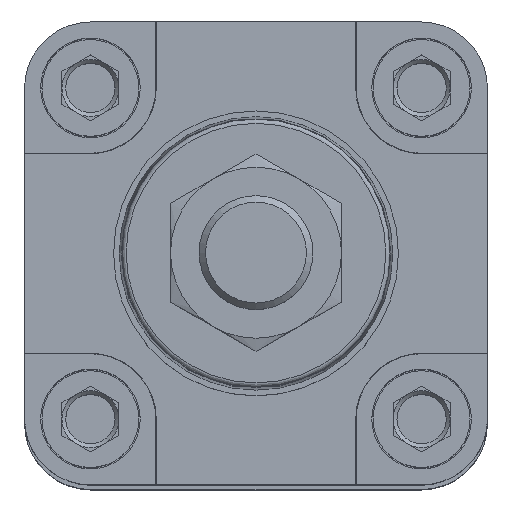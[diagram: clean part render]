
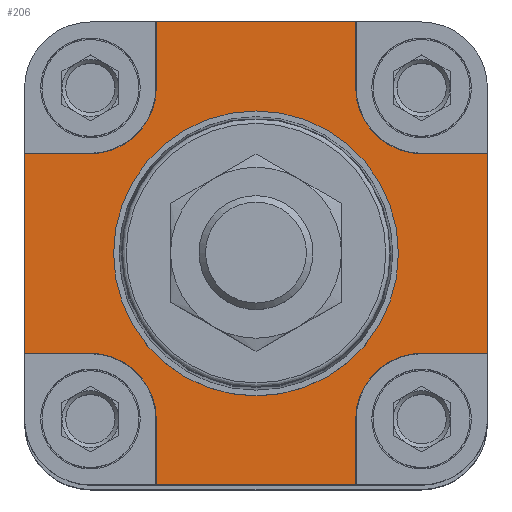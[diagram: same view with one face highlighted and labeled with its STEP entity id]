
A CAD part, top view. The second image highlights one B-rep face of the part: STEP entity #206.
In plain terms, the highlighted planar face has unit normal (0, 0, 1) as drawn and (0, 0, -1) by its records, which use the part's own axes.
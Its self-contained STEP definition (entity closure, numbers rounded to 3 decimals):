
#206 = ADVANCED_FACE( '', ( #596, #597 ), #598, .F. );
#596 = FACE_BOUND( '', #1468, .T. );
#597 = FACE_OUTER_BOUND( '', #1469, .T. );
#598 = PLANE( '', #1470 );
#1468 = EDGE_LOOP( '', ( #2339 ) );
#1469 = EDGE_LOOP( '', ( #2340, #2341, #2342, #2343, #2344, #2345, #2346, #2347, #2348, #2349, #2350, #2351, #2352, #2353, #2354, #2355 ) );
#1470 = AXIS2_PLACEMENT_3D( '', #2356, #2357, #2358 );
#2339 = ORIENTED_EDGE( '', *, *, #5285, .F. );
#2340 = ORIENTED_EDGE( '', *, *, #5286, .F. );
#2341 = ORIENTED_EDGE( '', *, *, #5287, .F. );
#2342 = ORIENTED_EDGE( '', *, *, #5288, .T. );
#2343 = ORIENTED_EDGE( '', *, *, #5289, .F. );
#2344 = ORIENTED_EDGE( '', *, *, #5290, .F. );
#2345 = ORIENTED_EDGE( '', *, *, #5291, .F. );
#2346 = ORIENTED_EDGE( '', *, *, #5292, .T. );
#2347 = ORIENTED_EDGE( '', *, *, #5293, .F. );
#2348 = ORIENTED_EDGE( '', *, *, #5294, .F. );
#2349 = ORIENTED_EDGE( '', *, *, #5295, .F. );
#2350 = ORIENTED_EDGE( '', *, *, #5296, .T. );
#2351 = ORIENTED_EDGE( '', *, *, #5297, .F. );
#2352 = ORIENTED_EDGE( '', *, *, #5298, .F. );
#2353 = ORIENTED_EDGE( '', *, *, #5299, .F. );
#2354 = ORIENTED_EDGE( '', *, *, #5300, .T. );
#2355 = ORIENTED_EDGE( '', *, *, #5301, .F. );
#2356 = CARTESIAN_POINT( '', ( -23.2, -23.2, -406. ) );
#2357 = DIRECTION( '', ( 0., 0., 1. ) );
#2358 = DIRECTION( '', ( 1., 0., 0. ) );
#5285 = EDGE_CURVE( '', #6176, #6176, #6177, .F. );
#5286 = EDGE_CURVE( '', #6178, #6179, #6180, .T. );
#5287 = EDGE_CURVE( '', #6181, #6178, #6182, .T. );
#5288 = EDGE_CURVE( '', #6181, #6183, #6184, .T. );
#5289 = EDGE_CURVE( '', #6185, #6183, #6186, .T. );
#5290 = EDGE_CURVE( '', #6187, #6185, #6188, .T. );
#5291 = EDGE_CURVE( '', #6189, #6187, #6190, .T. );
#5292 = EDGE_CURVE( '', #6189, #6191, #6192, .T. );
#5293 = EDGE_CURVE( '', #6193, #6191, #6194, .T. );
#5294 = EDGE_CURVE( '', #6195, #6193, #6196, .T. );
#5295 = EDGE_CURVE( '', #6197, #6195, #6198, .T. );
#5296 = EDGE_CURVE( '', #6197, #6199, #6200, .T. );
#5297 = EDGE_CURVE( '', #6201, #6199, #6202, .T. );
#5298 = EDGE_CURVE( '', #6203, #6201, #6204, .T. );
#5299 = EDGE_CURVE( '', #6205, #6203, #6206, .T. );
#5300 = EDGE_CURVE( '', #6205, #6207, #6208, .T. );
#5301 = EDGE_CURVE( '', #6179, #6207, #6209, .T. );
#6176 = VERTEX_POINT( '', #7667 );
#6177 = CIRCLE( '', #7668, 20. );
#6178 = VERTEX_POINT( '', #7669 );
#6179 = VERTEX_POINT( '', #7670 );
#6180 = LINE( '', #7671, #7672 );
#6181 = VERTEX_POINT( '', #7673 );
#6182 = LINE( '', #7674, #7675 );
#6183 = VERTEX_POINT( '', #7676 );
#6184 = CIRCLE( '', #7677, 9.3 );
#6185 = VERTEX_POINT( '', #7678 );
#6186 = LINE( '', #7679, #7680 );
#6187 = VERTEX_POINT( '', #7681 );
#6188 = LINE( '', #7682, #7683 );
#6189 = VERTEX_POINT( '', #7684 );
#6190 = LINE( '', #7685, #7686 );
#6191 = VERTEX_POINT( '', #7687 );
#6192 = CIRCLE( '', #7688, 9.3 );
#6193 = VERTEX_POINT( '', #7689 );
#6194 = LINE( '', #7690, #7691 );
#6195 = VERTEX_POINT( '', #7692 );
#6196 = LINE( '', #7693, #7694 );
#6197 = VERTEX_POINT( '', #7695 );
#6198 = LINE( '', #7696, #7697 );
#6199 = VERTEX_POINT( '', #7698 );
#6200 = CIRCLE( '', #7699, 9.3 );
#6201 = VERTEX_POINT( '', #7700 );
#6202 = LINE( '', #7701, #7702 );
#6203 = VERTEX_POINT( '', #7703 );
#6204 = LINE( '', #7704, #7705 );
#6205 = VERTEX_POINT( '', #7706 );
#6206 = LINE( '', #7707, #7708 );
#6207 = VERTEX_POINT( '', #7709 );
#6208 = CIRCLE( '', #7710, 9.3 );
#6209 = LINE( '', #7711, #7712 );
#7667 = CARTESIAN_POINT( '', ( 20., 0., -406. ) );
#7668 = AXIS2_PLACEMENT_3D( '', #9898, #9899, #9900 );
#7669 = CARTESIAN_POINT( '', ( -32.5, 14., -406. ) );
#7670 = CARTESIAN_POINT( '', ( -32.5, -14., -406. ) );
#7671 = CARTESIAN_POINT( '', ( -32.5, 23.2, -406. ) );
#7672 = VECTOR( '', #9901, 1000. );
#7673 = CARTESIAN_POINT( '', ( -23.3, 14., -406. ) );
#7674 = CARTESIAN_POINT( '', ( -23.3, 14., -406. ) );
#7675 = VECTOR( '', #9902, 1000. );
#7676 = CARTESIAN_POINT( '', ( -14., 23.3, -406. ) );
#7677 = AXIS2_PLACEMENT_3D( '', #9903, #9904, #9905 );
#7678 = CARTESIAN_POINT( '', ( -14., 32.5, -406. ) );
#7679 = CARTESIAN_POINT( '', ( -14., 32.5, -406. ) );
#7680 = VECTOR( '', #9906, 1000. );
#7681 = CARTESIAN_POINT( '', ( 14., 32.5, -406. ) );
#7682 = CARTESIAN_POINT( '', ( 23.2, 32.5, -406. ) );
#7683 = VECTOR( '', #9907, 1000. );
#7684 = CARTESIAN_POINT( '', ( 14., 23.3, -406. ) );
#7685 = CARTESIAN_POINT( '', ( 14., 23.3, -406. ) );
#7686 = VECTOR( '', #9908, 1000. );
#7687 = CARTESIAN_POINT( '', ( 23.3, 14., -406. ) );
#7688 = AXIS2_PLACEMENT_3D( '', #9909, #9910, #9911 );
#7689 = CARTESIAN_POINT( '', ( 32.5, 14., -406. ) );
#7690 = CARTESIAN_POINT( '', ( 32.5, 14., -406. ) );
#7691 = VECTOR( '', #9912, 1000. );
#7692 = CARTESIAN_POINT( '', ( 32.5, -14., -406. ) );
#7693 = CARTESIAN_POINT( '', ( 32.5, -23.2, -406. ) );
#7694 = VECTOR( '', #9913, 1000. );
#7695 = CARTESIAN_POINT( '', ( 23.3, -14., -406. ) );
#7696 = CARTESIAN_POINT( '', ( 23.3, -14., -406. ) );
#7697 = VECTOR( '', #9914, 1000. );
#7698 = CARTESIAN_POINT( '', ( 14., -23.3, -406. ) );
#7699 = AXIS2_PLACEMENT_3D( '', #9915, #9916, #9917 );
#7700 = CARTESIAN_POINT( '', ( 14., -32.5, -406. ) );
#7701 = CARTESIAN_POINT( '', ( 14., -32.5, -406. ) );
#7702 = VECTOR( '', #9918, 1000. );
#7703 = CARTESIAN_POINT( '', ( -14., -32.5, -406. ) );
#7704 = CARTESIAN_POINT( '', ( -23.2, -32.5, -406. ) );
#7705 = VECTOR( '', #9919, 1000. );
#7706 = CARTESIAN_POINT( '', ( -14., -23.3, -406. ) );
#7707 = CARTESIAN_POINT( '', ( -14., -23.3, -406. ) );
#7708 = VECTOR( '', #9920, 1000. );
#7709 = CARTESIAN_POINT( '', ( -23.3, -14., -406. ) );
#7710 = AXIS2_PLACEMENT_3D( '', #9921, #9922, #9923 );
#7711 = CARTESIAN_POINT( '', ( -32.5, -14., -406. ) );
#7712 = VECTOR( '', #9924, 1000. );
#9898 = CARTESIAN_POINT( '', ( 0., 0., -406. ) );
#9899 = DIRECTION( '', ( 0., 0., 1. ) );
#9900 = DIRECTION( '', ( 1., 0., 0. ) );
#9901 = DIRECTION( '', ( 0., -1., 0. ) );
#9902 = DIRECTION( '', ( -1., 0., 0. ) );
#9903 = CARTESIAN_POINT( '', ( -23.3, 23.3, -406. ) );
#9904 = DIRECTION( '', ( 0., 0., 1. ) );
#9905 = DIRECTION( '', ( 1., 0., 0. ) );
#9906 = DIRECTION( '', ( 0., -1., 0. ) );
#9907 = DIRECTION( '', ( -1., 0., 0. ) );
#9908 = DIRECTION( '', ( 0., 1., 0. ) );
#9909 = CARTESIAN_POINT( '', ( 23.3, 23.3, -406. ) );
#9910 = DIRECTION( '', ( 0., 0., 1. ) );
#9911 = DIRECTION( '', ( 1., 0., 0. ) );
#9912 = DIRECTION( '', ( -1., 0., 0. ) );
#9913 = DIRECTION( '', ( 0., 1., 0. ) );
#9914 = DIRECTION( '', ( 1., 0., 0. ) );
#9915 = CARTESIAN_POINT( '', ( 23.3, -23.3, -406. ) );
#9916 = DIRECTION( '', ( 0., 0., 1. ) );
#9917 = DIRECTION( '', ( 1., 0., 0. ) );
#9918 = DIRECTION( '', ( 0., 1., 0. ) );
#9919 = DIRECTION( '', ( 1., 0., 0. ) );
#9920 = DIRECTION( '', ( 0., -1., 0. ) );
#9921 = CARTESIAN_POINT( '', ( -23.3, -23.3, -406. ) );
#9922 = DIRECTION( '', ( 0., 0., 1. ) );
#9923 = DIRECTION( '', ( 1., 0., 0. ) );
#9924 = DIRECTION( '', ( 1., 0., 0. ) );
